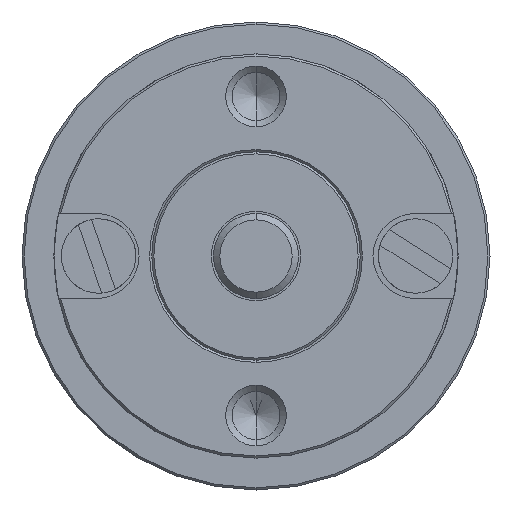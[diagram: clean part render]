
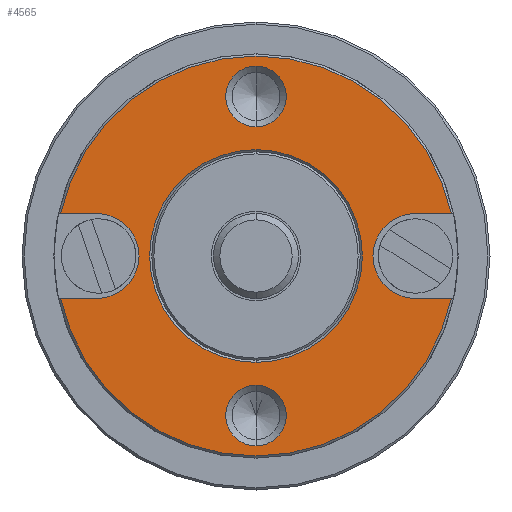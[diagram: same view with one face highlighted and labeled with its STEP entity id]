
A CAD part, front view. The second image highlights one B-rep face of the part: STEP entity #4565.
In plain terms, the highlighted planar face has unit normal (0, -1, 0).
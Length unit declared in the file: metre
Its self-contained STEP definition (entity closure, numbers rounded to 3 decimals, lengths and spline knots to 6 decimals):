
#15 = ORIENTED_EDGE ( 'NONE', *, *, #3939, .T. ) ;
#34 = VERTEX_POINT ( 'NONE', #364 ) ;
#40 = ORIENTED_EDGE ( 'NONE', *, *, #254, .T. ) ;
#185 = ORIENTED_EDGE ( 'NONE', *, *, #4585, .T. ) ;
#254 = EDGE_CURVE ( 'NONE', #3647, #34, #1565, .T. ) ;
#310 = ORIENTED_EDGE ( 'NONE', *, *, #4633, .F. ) ;
#364 = CARTESIAN_POINT ( 'NONE',  ( 0., 0.003, 0.006075 ) ) ;
#515 = CARTESIAN_POINT ( 'NONE',  ( 0., 0.003, 0.0094 ) ) ;
#658 = CARTESIAN_POINT ( 'NONE',  ( 0., 0.003, -0.008925 ) ) ;
#671 = EDGE_CURVE ( 'NONE', #4383, #1817, #1902, .T. ) ;
#753 = CIRCLE ( 'NONE', #754, 0.0094 ) ;
#754 = AXIS2_PLACEMENT_3D ( 'NONE', #755, #756, #757 ) ;
#755 = CARTESIAN_POINT ( 'NONE',  ( 0., 0.003, 0. ) ) ;
#756 = DIRECTION ( 'NONE',  ( 0., -1., 0. ) ) ;
#757 = DIRECTION ( 'NONE',  ( 0., 0., -1. ) ) ;
#964 = CIRCLE ( 'NONE', #965, 0.002 ) ;
#965 = AXIS2_PLACEMENT_3D ( 'NONE', #966, #967, #968 ) ;
#966 = CARTESIAN_POINT ( 'NONE',  ( -0.0075, 0.003, 0. ) ) ;
#967 = DIRECTION ( 'NONE',  ( 0., -1., 0. ) ) ;
#968 = DIRECTION ( 'NONE',  ( 0., 0., -1. ) ) ;
#1003 = CARTESIAN_POINT ( 'NONE',  ( -0.0075, 0.003, 0.002 ) ) ;
#1108 = CARTESIAN_POINT ( 'NONE',  ( 0., 0.003, 0.008925 ) ) ;
#1195 = EDGE_LOOP ( 'NONE', ( #4192, #4355 ) ) ;
#1277 = EDGE_LOOP ( 'NONE', ( #4244, #15, #3833, #4705, #310, #3874, #3109, #3780, #3969 ) ) ;
#1365 = EDGE_LOOP ( 'NONE', ( #3875, #40 ) ) ;
#1449 = CARTESIAN_POINT ( 'NONE',  ( -0.009185, 0.003, 0.002 ) ) ;
#1469 = EDGE_LOOP ( 'NONE', ( #185, #2812 ) ) ;
#1565 = CIRCLE ( 'NONE', #1566, 0.001425 ) ;
#1566 = AXIS2_PLACEMENT_3D ( 'NONE', #1567, #1568, #1569 ) ;
#1567 = CARTESIAN_POINT ( 'NONE',  ( 0., 0.003, 0.0075 ) ) ;
#1568 = DIRECTION ( 'NONE',  ( 0., 1., 0. ) ) ;
#1569 = DIRECTION ( 'NONE',  ( 0., 0., -1. ) ) ;
#1633 = EDGE_CURVE ( 'NONE', #3950, #1817, #2530, .T. ) ;
#1682 = LINE ( 'NONE', #1683, #1684 ) ;
#1683 = CARTESIAN_POINT ( 'NONE',  ( -0.0075, 0.003, 0.002 ) ) ;
#1684 = VECTOR ( 'NONE',  #1685 ,1. ) ;
#1685 = DIRECTION ( 'NONE',  ( -1., 0., 0. ) ) ;
#1800 = CARTESIAN_POINT ( 'NONE',  ( 0.009185, 0.003, 0.002 ) ) ;
#1801 = CARTESIAN_POINT ( 'NONE',  ( 0.0075, 0.003, 0.002 ) ) ;
#1817 = VERTEX_POINT ( 'NONE', #2671 ) ;
#1902 = LINE ( 'NONE', #1903, #1904 ) ;
#1903 = CARTESIAN_POINT ( 'NONE',  ( 0.0075, 0.003, -0.002 ) ) ;
#1904 = VECTOR ( 'NONE',  #1905 ,1. ) ;
#1905 = DIRECTION ( 'NONE',  ( 1., 0., 0. ) ) ;
#2050 = EDGE_CURVE ( 'NONE', #3744, #4383, #2847, .T. ) ;
#2126 = CARTESIAN_POINT ( 'NONE',  ( 0.0075, 0.003, -0.002 ) ) ;
#2188 = CIRCLE ( 'NONE', #2189, 0.001425 ) ;
#2189 = AXIS2_PLACEMENT_3D ( 'NONE', #2190, #2191, #2192 ) ;
#2190 = CARTESIAN_POINT ( 'NONE',  ( 0., 0.003, -0.0075 ) ) ;
#2191 = DIRECTION ( 'NONE',  ( 0., 1., 0. ) ) ;
#2192 = DIRECTION ( 'NONE',  ( 0., 0., -1. ) ) ;
#2430 = CARTESIAN_POINT ( 'NONE',  ( 0., 0.003, 0.005 ) ) ;
#2511 = CARTESIAN_POINT ( 'NONE',  ( -0.0075, 0.003, -0.002 ) ) ;
#2518 = CIRCLE ( 'NONE', #2519, 0.0094 ) ;
#2519 = AXIS2_PLACEMENT_3D ( 'NONE', #2520, #2521, #2522 ) ;
#2520 = CARTESIAN_POINT ( 'NONE',  ( 0., 0.003, 0. ) ) ;
#2521 = DIRECTION ( 'NONE',  ( 0., -1., 0. ) ) ;
#2522 = DIRECTION ( 'NONE',  ( 0., 0., -1. ) ) ;
#2530 = CIRCLE ( 'NONE', #2531, 0.0094 ) ;
#2531 = AXIS2_PLACEMENT_3D ( 'NONE', #2532, #2533, #2534 ) ;
#2532 = CARTESIAN_POINT ( 'NONE',  ( 0., 0.003, 0. ) ) ;
#2533 = DIRECTION ( 'NONE',  ( 0., -1., 0. ) ) ;
#2534 = DIRECTION ( 'NONE',  ( 0., 0., -1. ) ) ;
#2571 = CARTESIAN_POINT ( 'NONE',  ( -0.009185, 0.003, -0.002 ) ) ;
#2626 = CARTESIAN_POINT ( 'NONE',  ( 0., 0.003, -0.006075 ) ) ;
#2629 = EDGE_CURVE ( 'NONE', #34, #3647, #3104, .T. ) ;
#2671 = CARTESIAN_POINT ( 'NONE',  ( 0.009185, 0.003, -0.002 ) ) ;
#2812 = ORIENTED_EDGE ( 'NONE', *, *, #3826, .T. ) ;
#2847 = CIRCLE ( 'NONE', #2848, 0.002 ) ;
#2848 = AXIS2_PLACEMENT_3D ( 'NONE', #2849, #2850, #2851 ) ;
#2849 = CARTESIAN_POINT ( 'NONE',  ( 0.0075, 0.003, 0. ) ) ;
#2850 = DIRECTION ( 'NONE',  ( 0., -1., 0. ) ) ;
#2851 = DIRECTION ( 'NONE',  ( 0., 0., -1. ) ) ;
#2852 = CARTESIAN_POINT ( 'NONE',  ( 0., 0.003, -0.005 ) ) ;
#2915 = EDGE_CURVE ( 'NONE', #3924, #4470, #3207, .T. ) ;
#2935 = LINE ( 'NONE', #2936, #2937 ) ;
#2936 = CARTESIAN_POINT ( 'NONE',  ( -0.0075, 0.003, -0.002 ) ) ;
#2937 = VECTOR ( 'NONE',  #2938 ,1. ) ;
#2938 = DIRECTION ( 'NONE',  ( 1., 0., 0. ) ) ;
#3104 = CIRCLE ( 'NONE', #3105, 0.001425 ) ;
#3105 = AXIS2_PLACEMENT_3D ( 'NONE', #3106, #3107, #3108 ) ;
#3106 = CARTESIAN_POINT ( 'NONE',  ( 0., 0.003, 0.0075 ) ) ;
#3107 = DIRECTION ( 'NONE',  ( 0., 1., 0. ) ) ;
#3108 = DIRECTION ( 'NONE',  ( 0., 0., -1. ) ) ;
#3109 = ORIENTED_EDGE ( 'NONE', *, *, #1633, .T. ) ;
#3207 = CIRCLE ( 'NONE', #3208, 0.005 ) ;
#3208 = AXIS2_PLACEMENT_3D ( 'NONE', #3209, #3210, #3211 ) ;
#3209 = CARTESIAN_POINT ( 'NONE',  ( 0., 0.003, 0. ) ) ;
#3210 = DIRECTION ( 'NONE',  ( 0., -1., 0. ) ) ;
#3211 = DIRECTION ( 'NONE',  ( 0., 0., -1. ) ) ;
#3268 = CIRCLE ( 'NONE', #3269, 0.005 ) ;
#3269 = AXIS2_PLACEMENT_3D ( 'NONE', #3270, #3271, #3272 ) ;
#3270 = CARTESIAN_POINT ( 'NONE',  ( 0., 0.003, 0. ) ) ;
#3271 = DIRECTION ( 'NONE',  ( 0., -1., 0. ) ) ;
#3272 = DIRECTION ( 'NONE',  ( 0., 0., -1. ) ) ;
#3288 = FACE_BOUND ( 'NONE', #1469, .T. ) ;
#3289 = FACE_BOUND ( 'NONE', #1365, .T. ) ;
#3292 = FACE_OUTER_BOUND ( 'NONE', #1277, .T. ) ;
#3293 = FACE_BOUND ( 'NONE', #1195, .T. ) ;
#3294 = PLANE ( 'NONE',  #3295 ) ;
#3295 = AXIS2_PLACEMENT_3D ( 'NONE', #3296, #3297, #3298 ) ;
#3296 = CARTESIAN_POINT ( 'NONE',  ( 0.0095, 0.003, 0. ) ) ;
#3297 = DIRECTION ( 'NONE',  ( 0., -1., 0. ) ) ;
#3298 = DIRECTION ( 'NONE',  ( 0., 0., -1. ) ) ;
#3415 = EDGE_CURVE ( 'NONE', #4734, #3744, #3419, .T. ) ;
#3419 = LINE ( 'NONE', #3420, #3421 ) ;
#3420 = CARTESIAN_POINT ( 'NONE',  ( 0.0075, 0.003, 0.002 ) ) ;
#3421 = VECTOR ( 'NONE',  #3422 ,1. ) ;
#3422 = DIRECTION ( 'NONE',  ( -1., 0., 0. ) ) ;
#3436 = CIRCLE ( 'NONE', #3437, 0.001425 ) ;
#3437 = AXIS2_PLACEMENT_3D ( 'NONE', #3438, #3439, #3440 ) ;
#3438 = CARTESIAN_POINT ( 'NONE',  ( 0., 0.003, -0.0075 ) ) ;
#3439 = DIRECTION ( 'NONE',  ( 0., 1., 0. ) ) ;
#3440 = DIRECTION ( 'NONE',  ( 0., 0., -1. ) ) ;
#3647 = VERTEX_POINT ( 'NONE', #1108 ) ;
#3744 = VERTEX_POINT ( 'NONE', #1801 ) ;
#3780 = ORIENTED_EDGE ( 'NONE', *, *, #671, .F. ) ;
#3826 = EDGE_CURVE ( 'NONE', #3970, #4150, #2188, .T. ) ;
#3833 = ORIENTED_EDGE ( 'NONE', *, *, #4184, .T. ) ;
#3874 = ORIENTED_EDGE ( 'NONE', *, *, #4483, .F. ) ;
#3875 = ORIENTED_EDGE ( 'NONE', *, *, #2629, .T. ) ;
#3924 = VERTEX_POINT ( 'NONE', #2430 ) ;
#3936 = VERTEX_POINT ( 'NONE', #2511 ) ;
#3939 = EDGE_CURVE ( 'NONE', #4734, #4104, #2518, .T. ) ;
#3950 = VERTEX_POINT ( 'NONE', #2571 ) ;
#3969 = ORIENTED_EDGE ( 'NONE', *, *, #2050, .F. ) ;
#3970 = VERTEX_POINT ( 'NONE', #2626 ) ;
#4104 = VERTEX_POINT ( 'NONE', #515 ) ;
#4150 = VERTEX_POINT ( 'NONE', #658 ) ;
#4184 = EDGE_CURVE ( 'NONE', #4104, #4296, #753, .T. ) ;
#4192 = ORIENTED_EDGE ( 'NONE', *, *, #4554, .F. ) ;
#4244 = ORIENTED_EDGE ( 'NONE', *, *, #3415, .F. ) ;
#4296 = VERTEX_POINT ( 'NONE', #1449 ) ;
#4355 = ORIENTED_EDGE ( 'NONE', *, *, #2915, .F. ) ;
#4383 = VERTEX_POINT ( 'NONE', #2126 ) ;
#4470 = VERTEX_POINT ( 'NONE', #2852 ) ;
#4483 = EDGE_CURVE ( 'NONE', #3950, #3936, #2935, .T. ) ;
#4554 = EDGE_CURVE ( 'NONE', #4470, #3924, #3268, .T. ) ;
#4565 = ADVANCED_FACE ( 'NONE', ( #3288, #3289, #3292, #3293 ), #3294, .T. ) ;
#4585 = EDGE_CURVE ( 'NONE', #4150, #3970, #3436, .T. ) ;
#4633 = EDGE_CURVE ( 'NONE', #3936, #4639, #964, .T. ) ;
#4639 = VERTEX_POINT ( 'NONE', #1003 ) ;
#4705 = ORIENTED_EDGE ( 'NONE', *, *, #4722, .F. ) ;
#4722 = EDGE_CURVE ( 'NONE', #4639, #4296, #1682, .T. ) ;
#4734 = VERTEX_POINT ( 'NONE', #1800 ) ;
